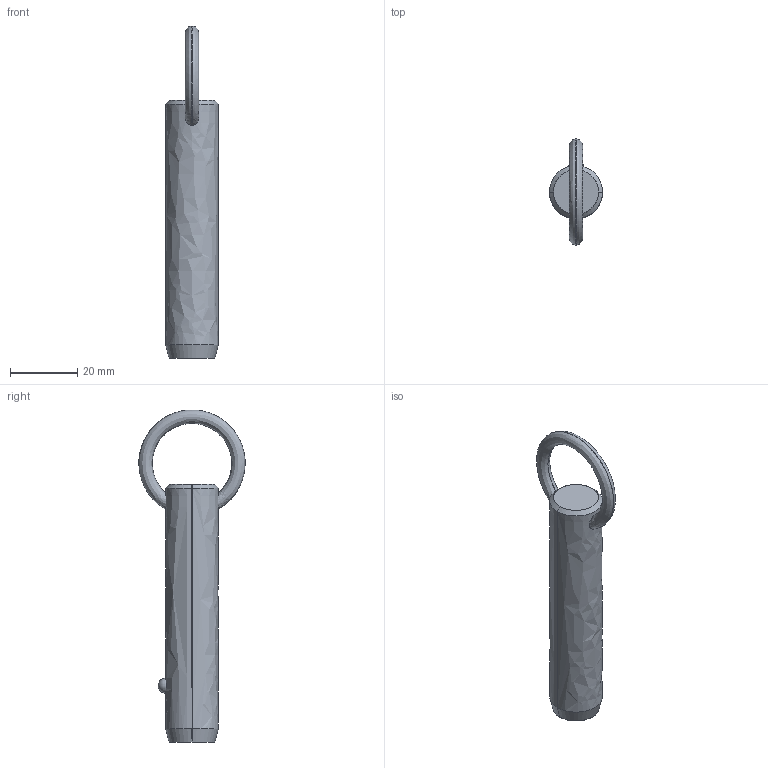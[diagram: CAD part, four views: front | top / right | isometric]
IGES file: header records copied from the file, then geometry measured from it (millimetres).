
Start section: SolidWorks IGES file using analytic representation for surfaces
Global section: file name: C:\Users\liam_\OneDrive\Documents\WORK\Work for WixRoyd\Job Files\J-00019 - Matt Davis CAD Checking\04. CAD Drawings\automotion20190605\P1250.2_v2\P1250.2_v2_20190729_IGES\P1250.062-190.igs; native system: SolidWorks 2017; preprocessor: SolidWorks 2017; author: liam_; date: 190729.233148; units: millimetre
Bounding box: 15.8 x 31.66 x 99 mm (x, y, z)
Surface area: 4986 mm2 (no closed solid volume)
Topology: 0 solids, 0 shells, 12 faces, 292 edges, 290 vertices
Faces by surface type: revolution 8, bspline 4
